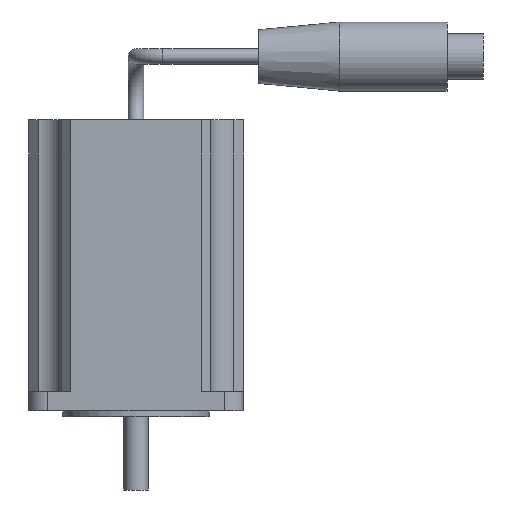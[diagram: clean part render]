
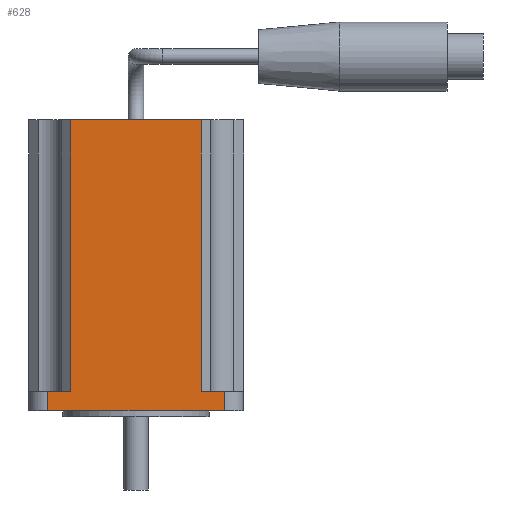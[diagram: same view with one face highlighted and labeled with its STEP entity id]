
A CAD part, front view. The second image highlights one B-rep face of the part: STEP entity #628.
In plain terms, the highlighted planar face has unit normal (0, -1, 0).
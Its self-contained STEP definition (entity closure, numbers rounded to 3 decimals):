
#531=CARTESIAN_POINT('',(23.,-28.,5.0));
#532=VERTEX_POINT('',#531);
#540=CARTESIAN_POINT('',(23.,-28.,0.0));
#541=VERTEX_POINT('',#540);
#542=CARTESIAN_POINT('',(23.,-28.,5.0));
#543=DIRECTION('',(0.0,0.0,-1.0));
#544=VECTOR('',#543,5.0);
#545=LINE('',#542,#544);
#546=EDGE_CURVE('',#532,#541,#545,.T.);
#566=CARTESIAN_POINT('',(28.,-28.,0.0));
#567=DIRECTION('',(0.0,-1.0,0.0));
#568=DIRECTION('',(0.0,0.0,-1.0));
#569=AXIS2_PLACEMENT_3D('',#566,#567,#568);
#570=PLANE('',#569);
#571=ORIENTED_EDGE('',*,*,#546,.F.);
#572=CARTESIAN_POINT('',(17.,-28.,5.0));
#573=VERTEX_POINT('',#572);
#574=CARTESIAN_POINT('',(23.,-28.,5.0));
#575=DIRECTION('',(-1.0,0.0,0.0));
#576=VECTOR('',#575,6.);
#577=LINE('',#574,#576);
#578=EDGE_CURVE('',#532,#573,#577,.T.);
#579=ORIENTED_EDGE('',*,*,#578,.T.);
#580=CARTESIAN_POINT('',(17.,-28.,75.8));
#581=VERTEX_POINT('',#580);
#582=CARTESIAN_POINT('',(17.,-28.,5.0));
#583=DIRECTION('',(0.0,0.0,1.0));
#584=VECTOR('',#583,70.8);
#585=LINE('',#582,#584);
#586=EDGE_CURVE('',#573,#581,#585,.T.);
#587=ORIENTED_EDGE('',*,*,#586,.T.);
#588=CARTESIAN_POINT('',(-17.,-28.,75.8));
#589=VERTEX_POINT('',#588);
#590=CARTESIAN_POINT('',(17.,-28.,75.8));
#591=DIRECTION('',(-1.0,0.0,0.0));
#592=VECTOR('',#591,34.);
#593=LINE('',#590,#592);
#594=EDGE_CURVE('',#581,#589,#593,.T.);
#595=ORIENTED_EDGE('',*,*,#594,.T.);
#596=CARTESIAN_POINT('',(-17.,-28.,5.0));
#597=VERTEX_POINT('',#596);
#598=CARTESIAN_POINT('',(-17.,-28.,75.8));
#599=DIRECTION('',(0.0,0.0,-1.0));
#600=VECTOR('',#599,70.8);
#601=LINE('',#598,#600);
#602=EDGE_CURVE('',#589,#597,#601,.T.);
#603=ORIENTED_EDGE('',*,*,#602,.T.);
#604=CARTESIAN_POINT('',(-23.,-28.,5.0));
#605=VERTEX_POINT('',#604);
#606=CARTESIAN_POINT('',(-17.,-28.,5.0));
#607=DIRECTION('',(-1.0,0.0,0.0));
#608=VECTOR('',#607,6.);
#609=LINE('',#606,#608);
#610=EDGE_CURVE('',#597,#605,#609,.T.);
#611=ORIENTED_EDGE('',*,*,#610,.T.);
#612=CARTESIAN_POINT('',(-23.,-28.,0.0));
#613=VERTEX_POINT('',#612);
#614=CARTESIAN_POINT('',(-23.,-28.,0.0));
#615=DIRECTION('',(0.0,0.0,1.0));
#616=VECTOR('',#615,5.0);
#617=LINE('',#614,#616);
#618=EDGE_CURVE('',#613,#605,#617,.T.);
#619=ORIENTED_EDGE('',*,*,#618,.F.);
#620=CARTESIAN_POINT('',(-23.,-28.,0.0));
#621=DIRECTION('',(1.0,0.0,0.0));
#622=VECTOR('',#621,46.);
#623=LINE('',#620,#622);
#624=EDGE_CURVE('',#613,#541,#623,.T.);
#625=ORIENTED_EDGE('',*,*,#624,.T.);
#626=EDGE_LOOP('',(#571,#579,#587,#595,#603,#611,#619,#625));
#627=FACE_OUTER_BOUND('',#626,.T.);
#628=ADVANCED_FACE('',(#627),#570,.T.);
